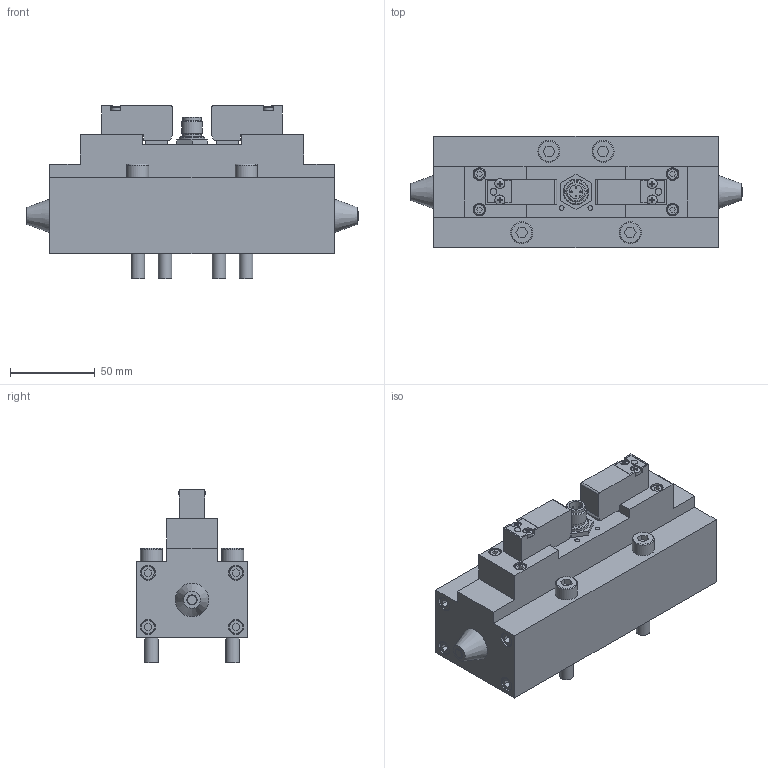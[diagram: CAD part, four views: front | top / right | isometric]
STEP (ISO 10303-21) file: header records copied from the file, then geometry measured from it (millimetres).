
FILE_DESCRIPTION((''),'2;1');
FILE_NAME('I:\Area Tecnica\Disegni\VARIE-3D\Componenti\ISO\ISO-M12\1113_52_3_5_12P.stp','2014-03-18T13:52:58',('valotma1'),(''),'Autodesk Inventor 2013','Autodesk Inventor 2013','');
FILE_SCHEMA(('AUTOMOTIVE_DESIGN { 1 0 10303 214 1 1 1 1 }'));
Length unit declared in the file: millimetre
Products named in the file (3): 1113_52_3_5_12P; 1113_52_3_5; M15P12P_
Assembly tree (3 placements, depth 2):
  1113_52_3_5_12P
    1113_52_3_5
    M15P12P_  x2
Bounding box: 196 x 66 x 102.2 mm (x, y, z)
Volume: 633886.7 mm3; surface area: 68107.9 mm2
Topology: 5 solids, 5 shells, 419 faces, 966 edges, 633 vertices
Faces by surface type: plane 308, cylinder 74, torus 16, cone 13, sphere 8
Full cylindrical faces by diameter (mm): 1 x4, 2 x10, 3 x4, 3.1 x4, 3.9 x2, 5.8 x4, 6 x2, 7 x4, 7.5 x4, 8 x4, 8.5 x8, 9 x8, 10.7 x2, 12 x1, 13 x4, 15 x1
Entity records: 9230 total; most frequent: DIRECTION 1528, CARTESIAN_POINT 1497, ORIENTED_EDGE 1330, EDGE_CURVE 665, AXIS2_PLACEMENT_3D 518, EDGE_LOOP 494, VECTOR 492, LINE 492
